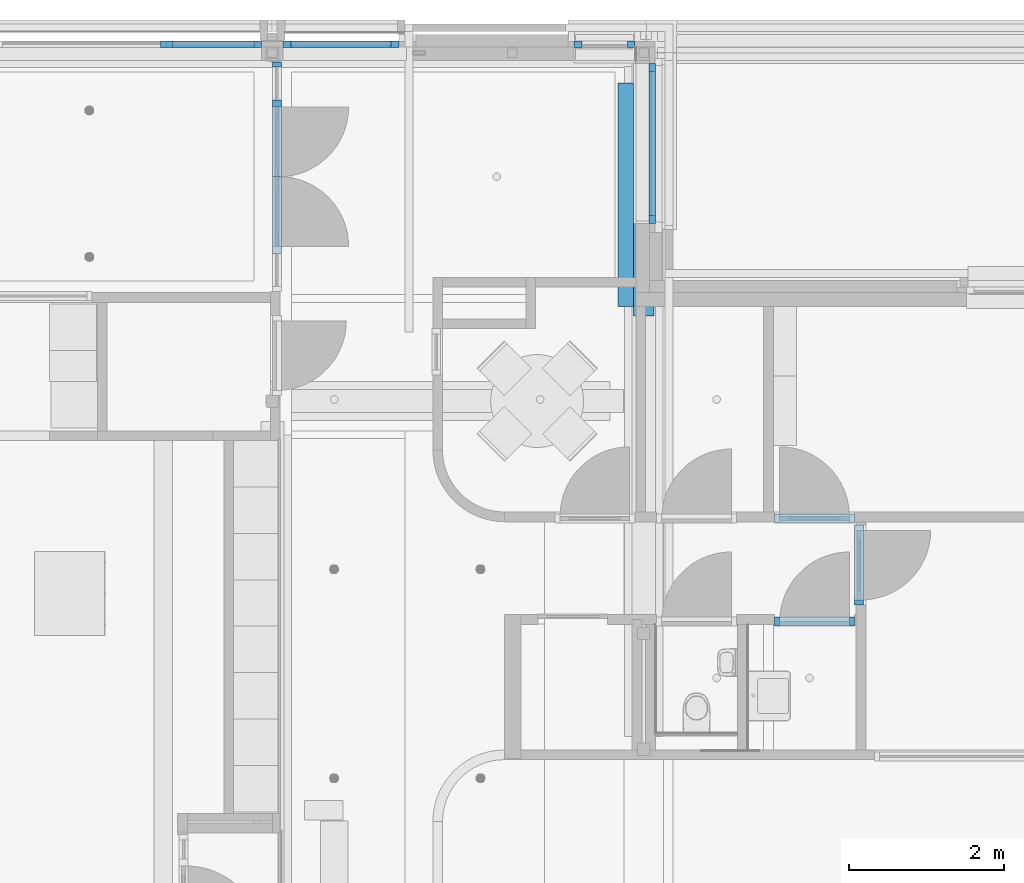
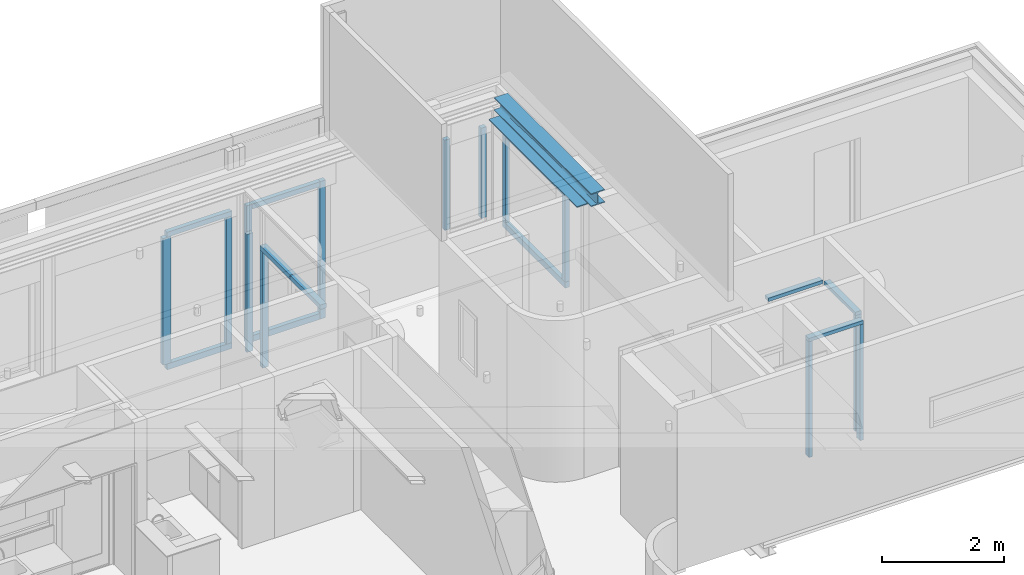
# One storey, part 22 of 128: 24 members, 1 beam, 8 elements without a shape of their own.
"""IFC2X3 building model written with IfcOpenShell, lengths in millimetres."""

from ifc_helpers import new_model, entity, si_unit, converted_unit, derived_unit, direction, frame, frame_2d, origin, origin_2d_with_axis, place, context, subcontext, project, spatial, polyline, circle_curve, parameter, trimmed, segment, composite_curve, rectangle, outline, extrude, source, transform, mapped, material, type_object, type_shapes, element, aggregate, save


model = new_model("IFC2X3")

# Units and contexts
model_context = context("Model", 3, precision=0.01, world=origin(), true_north=direction((6.123031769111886e-17, 1.0)))
body_context = subcontext(model_context, "Body", "Model", "MODEL_VIEW")
ifc_project = project(units=[si_unit("LENGTHUNIT", "METRE", prefix="MILLI"), si_unit("AREAUNIT", "SQUARE_METRE"), si_unit("VOLUMEUNIT", "CUBIC_METRE"), converted_unit("PLANEANGLEUNIT", "DEGREE", entity("IfcRatioMeasure", 0.017453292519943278), si_unit("PLANEANGLEUNIT", "RADIAN"), dimensions=[0, 0, 0, 0, 0, 0, 0]), si_unit("MASSUNIT", "GRAM", prefix="KILO"), derived_unit("MASSDENSITYUNIT", [(si_unit("MASSUNIT", "GRAM", prefix="KILO"), 1), (si_unit("LENGTHUNIT", "METRE"), -3)]), derived_unit("IONCONCENTRATIONUNIT", [(si_unit("MASSUNIT", "GRAM", prefix="KILO"), 1), (si_unit("LENGTHUNIT", "METRE"), -3)]), derived_unit("MOMENTOFINERTIAUNIT", [(si_unit("LENGTHUNIT", "METRE"), 4)]), si_unit("TIMEUNIT", "SECOND"), si_unit("FREQUENCYUNIT", "HERTZ"), si_unit("THERMODYNAMICTEMPERATUREUNIT", "DEGREE_CELSIUS"), derived_unit("THERMALTRANSMITTANCEUNIT", [(si_unit("MASSUNIT", "GRAM", prefix="KILO"), 1), (si_unit("THERMODYNAMICTEMPERATUREUNIT", "KELVIN"), -1), (si_unit("TIMEUNIT", "SECOND"), -3)]), derived_unit("THERMALCONDUCTANCEUNIT", [(si_unit("MASSUNIT", "GRAM", prefix="KILO"), 1), (si_unit("THERMODYNAMICTEMPERATUREUNIT", "KELVIN"), -1), (si_unit("TIMEUNIT", "SECOND"), -3), (si_unit("LENGTHUNIT", "METRE"), 1)]), derived_unit("VOLUMETRICFLOWRATEUNIT", [(si_unit("LENGTHUNIT", "METRE"), 3), (si_unit("TIMEUNIT", "SECOND"), -1)]), derived_unit("MASSFLOWRATEUNIT", [(si_unit("MASSUNIT", "GRAM", prefix="KILO"), 1), (si_unit("TIMEUNIT", "SECOND"), -1)]), derived_unit("ROTATIONALFREQUENCYUNIT", [(si_unit("TIMEUNIT", "SECOND"), -1)]), si_unit("ELECTRICCURRENTUNIT", "AMPERE"), si_unit("ELECTRICVOLTAGEUNIT", "VOLT"), si_unit("POWERUNIT", "WATT"), si_unit("FORCEUNIT", "NEWTON", prefix="KILO"), si_unit("ILLUMINANCEUNIT", "LUX"), si_unit("LUMINOUSFLUXUNIT", "LUMEN"), si_unit("LUMINOUSINTENSITYUNIT", "CANDELA"), derived_unit("USERDEFINED", [(si_unit("MASSUNIT", "GRAM", prefix="KILO"), -1), (si_unit("LENGTHUNIT", "METRE"), -2), (si_unit("TIMEUNIT", "SECOND"), 3), (si_unit("LUMINOUSFLUXUNIT", "LUMEN"), 1)]), derived_unit("USERDEFINED", [(si_unit("MASSUNIT", "GRAM", prefix="KILO"), 1), (si_unit("TIMEUNIT", "SECOND"), -3), (si_unit("LENGTHUNIT", "METRE"), 3), (si_unit("ELECTRICCURRENTUNIT", "AMPERE"), -2)]), derived_unit("SOUNDPOWERUNIT", [(si_unit("MASSUNIT", "GRAM", prefix="KILO"), 1), (si_unit("TIMEUNIT", "SECOND"), -3), (si_unit("LENGTHUNIT", "METRE"), 2)]), derived_unit("SOUNDPRESSUREUNIT", [(si_unit("MASSUNIT", "GRAM", prefix="KILO"), 1), (si_unit("LENGTHUNIT", "METRE"), -1), (si_unit("TIMEUNIT", "SECOND"), -2)]), derived_unit("LINEARVELOCITYUNIT", [(si_unit("LENGTHUNIT", "METRE"), 1), (si_unit("TIMEUNIT", "SECOND"), -1)]), si_unit("PRESSUREUNIT", "PASCAL"), derived_unit("USERDEFINED", [(si_unit("MASSUNIT", "GRAM", prefix="KILO"), 1), (si_unit("LENGTHUNIT", "METRE"), -2), (si_unit("TIMEUNIT", "SECOND"), -2)]), derived_unit("LINEARFORCEUNIT", [(si_unit("MASSUNIT", "GRAM", prefix="KILO"), 1), (si_unit("TIMEUNIT", "SECOND"), -2)]), derived_unit("PLANARFORCEUNIT", [(si_unit("MASSUNIT", "GRAM", prefix="KILO"), 1), (si_unit("LENGTHUNIT", "METRE"), -1), (si_unit("TIMEUNIT", "SECOND"), -2)]), derived_unit("SPECIFICHEATCAPACITYUNIT", [(si_unit("THERMODYNAMICTEMPERATUREUNIT", "KELVIN"), -1), (si_unit("LENGTHUNIT", "METRE"), 2), (si_unit("TIMEUNIT", "SECOND"), -2)]), derived_unit("HEATINGVALUEUNIT", [(si_unit("LENGTHUNIT", "METRE"), 2), (si_unit("TIMEUNIT", "SECOND"), -2)]), derived_unit("VAPORPERMEABILITYUNIT", [(si_unit("LENGTHUNIT", "METRE"), -1), (si_unit("TIMEUNIT", "SECOND"), 1)]), derived_unit("DYNAMICVISCOSITYUNIT", [(si_unit("MASSUNIT", "GRAM", prefix="KILO"), 1), (si_unit("TIMEUNIT", "SECOND"), -1), (si_unit("LENGTHUNIT", "METRE"), -1)]), derived_unit("THERMALEXPANSIONCOEFFICIENTUNIT", [(si_unit("THERMODYNAMICTEMPERATUREUNIT", "KELVIN"), -1)]), derived_unit("MODULUSOFELASTICITYUNIT", [(si_unit("MASSUNIT", "GRAM", prefix="KILO"), 1), (si_unit("LENGTHUNIT", "METRE"), -1), (si_unit("TIMEUNIT", "SECOND"), -2)]), derived_unit("ISOTHERMALMOISTURECAPACITYUNIT", [(si_unit("LENGTHUNIT", "METRE"), 3), (si_unit("MASSUNIT", "GRAM", prefix="KILO"), -1)]), derived_unit("MOISTUREDIFFUSIVITYUNIT", [(si_unit("TIMEUNIT", "SECOND"), -1), (si_unit("LENGTHUNIT", "METRE"), 2)])], contexts=[model_context])

# Site, building, storey
site_placement = place(None, frame((0.0, 300.0, 0.0)))
site = spatial("IfcSite", under=ifc_project, at=site_placement, Name="<Kadastrale nummers>", CompositionType="ELEMENT")
building_placement = place(site_placement, origin())
building = spatial("IfcBuilding", under=site, at=building_placement, CompositionType="ELEMENT")
storey_placement = place(building_placement, frame((0.0, 0.0, 3560.0000331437)))
storey = spatial("IfcBuildingStorey", under=building, at=storey_placement, Name="01 eerste verdieping", CompositionType="ELEMENT", Elevation=3560.0000331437)

# Curtain wall, members
curtain_wall_type_1 = type_object("IfcCurtainWallType", Name="Curtain Wall:Merk H02", PredefinedType="NOTDEFINED")
curtain_wall_1_placement = place(storey_placement, frame((0.0, 0.0, -3560.0000331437)))
curtain_wall_1 = element("IfcCurtainWall", 1, at=curtain_wall_1_placement, inside=storey, type_object=curtain_wall_type_1, Name="Curtain Wall:Merk H02", ObjectType="Curtain Wall:Merk H02")
ifc_material_1 = material(Name="ISR_HPL")
member_type_1 = type_object("IfcMemberType", Name="Rectangular Mullion:31_CWM_067x114", PredefinedType="MULLION", material=ifc_material_1)
shared_shape_1 = source(origin(), body_context, "Body", "SweptSolid", [
    extrude(rectangle(XDim=113.99999999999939, YDim=67.0, at=origin_2d_with_axis()), frame((-33.5, -57.0, -1034.0), z_axis=(0.0, 0.0, 1.0), x_axis=(0.0, -1.0, 0.0)), (0.0, 0.0, 1.0), 1033.9999999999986),
])
type_shapes(member_type_1, [shared_shape_1])
member_1_placement = place(curtain_wall_1_placement, frame((44124.0, 42395.125002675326, 6040.0000331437), z_axis=(1.0, 0.0, 0.0), x_axis=(0.0, 0.0, 1.0)))
member_1 = element("IfcMember", 2, at=member_1_placement, type_object=member_type_1, material=ifc_material_1, Name="Rectangular Mullion:31_CWM_067x114", ObjectType="Rectangular Mullion:31_CWM_067x114", context=body_context, shape_type="MappedRepresentation", body=[
    mapped(shared_shape_1, transform((0.0, 0.0, 0.0), scale=1.0)),
])
member_type_2 = type_object("IfcMemberType", Name="Rectangular Mullion:31_CWM_067x114", PredefinedType="MULLION", material=ifc_material_1)
shared_shape_2 = source(origin(), body_context, "Body", "SweptSolid", [
    extrude(rectangle(XDim=113.99999999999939, YDim=67.0, at=origin_2d_with_axis()), frame((-33.5, -57.0, -2323.0), z_axis=(0.0, 0.0, 1.0), x_axis=(0.0, -1.0, 0.0)), (0.0, 0.0, 1.0), 2323.0),
])
type_shapes(member_type_2, [shared_shape_2])
member_2_placement = place(curtain_wall_1_placement, frame((44124.0, 42395.125002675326, 3650.00003501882), z_axis=(0.0, 0.0, -1.0), x_axis=(1.0, 0.0, 0.0)))
member_2 = element("IfcMember", 3, at=member_2_placement, type_object=member_type_2, material=ifc_material_1, Name="Rectangular Mullion:31_CWM_067x114", ObjectType="Rectangular Mullion:31_CWM_067x114", context=body_context, shape_type="MappedRepresentation", body=[
    mapped(shared_shape_2, transform((0.0, 0.0, 0.0), scale=1.0)),
])
member_type_3 = type_object("IfcMemberType", Name="Rectangular Mullion:31_CWM_067x114", PredefinedType="MULLION", material=ifc_material_1)
shared_shape_3 = source(origin(), body_context, "Body", "SweptSolid", [
    extrude(rectangle(XDim=113.9999999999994, YDim=67.0, at=frame_2d((1.0658141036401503e-14, 0.0), x_axis=(1.0, 0.0))), frame((-33.5, -57.0, -2323.0), z_axis=(0.0, 0.0, 1.0), x_axis=(0.0, -1.0, 0.0)), (0.0, 0.0, 1.0), 2323.0),
])
type_shapes(member_type_3, [shared_shape_3])
member_3_placement = place(curtain_wall_1_placement, frame((43090.0, 42395.12500267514, 5973.0000331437), z_axis=(0.0, 0.0, 1.0), x_axis=(-1.0, 0.0, 0.0)))
member_3 = element("IfcMember", 4, at=member_3_placement, type_object=member_type_3, material=ifc_material_1, Name="Rectangular Mullion:31_CWM_067x114", ObjectType="Rectangular Mullion:31_CWM_067x114", context=body_context, shape_type="MappedRepresentation", body=[
    mapped(shared_shape_3, transform((0.0, 0.0, 0.0), scale=1.0)),
])
aggregate(curtain_wall_1, [member_1, member_2, member_3])

# Curtain wall, member
curtain_wall_type_2 = type_object("IfcCurtainWallType", Name="Curtain Wall:Merk H16", PredefinedType="NOTDEFINED")
curtain_wall_2_placement = place(storey_placement, frame((0.0, 0.0, -3560.0000331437)))
curtain_wall_2 = element("IfcCurtainWall", 5, at=curtain_wall_2_placement, inside=storey, type_object=curtain_wall_type_2, Name="Curtain Wall:Merk H16", ObjectType="Curtain Wall:Merk H16")
member_type_4 = type_object("IfcMemberType", Name="Rectangular Mullion:31_CWM_067x114", PredefinedType="MULLION", material=ifc_material_1)
shared_shape_4 = source(origin(), body_context, "Body", "SweptSolid", [
    extrude(rectangle(XDim=113.99999999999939, YDim=67.0, at=origin_2d_with_axis()), frame((-33.5, 57.0, -2323.0), z_axis=(0.0, 0.0, 1.0), x_axis=(0.0, -1.0, 0.0)), (0.0, 0.0, 1.0), 2323.0),
])
type_shapes(member_type_4, [shared_shape_4])
member_4_placement = place(curtain_wall_2_placement, frame((44125.0, 42663.12500266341, 5973.0000331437), z_axis=(0.0, 0.0, 1.0), x_axis=(0.0, -1.0, 0.0)))
member_4 = element("IfcMember", 6, at=member_4_placement, type_object=member_type_4, material=ifc_material_1, Name="Rectangular Mullion:31_CWM_067x114", ObjectType="Rectangular Mullion:31_CWM_067x114", context=body_context, shape_type="MappedRepresentation", body=[
    mapped(shared_shape_4, transform((0.0, 0.0, 0.0), scale=1.0)),
])

curtain_wall_3_placement = place(storey_placement, frame((0.0, 0.0, -3560.0000331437)))
curtain_wall_3 = element("IfcCurtainWall", 7, at=curtain_wall_3_placement, inside=storey, type_object=curtain_wall_type_2, Name="Curtain Wall:Merk H16", ObjectType="Curtain Wall:Merk H16")
member_type_5 = type_object("IfcMemberType", Name="Rectangular Mullion:31_CWM_067x114", PredefinedType="MULLION", material=ifc_material_1)
shared_shape_5 = source(origin(), body_context, "Body", "SweptSolid", [
    extrude(rectangle(XDim=113.99999999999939, YDim=67.0, at=origin_2d_with_axis()), frame((-33.5, 57.0, -1034.0), z_axis=(0.0, 0.0, 1.0), x_axis=(0.0, -1.0, 0.0)), (0.0, 0.0, 1.0), 1033.9999999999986),
])
type_shapes(member_type_5, [shared_shape_5])
member_5_placement = place(curtain_wall_3_placement, frame((43090.0, 43725.12500267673, 6040.0000331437), z_axis=(-1.0, 0.0, 0.0), x_axis=(0.0, 0.0, 1.0)))
member_5 = element("IfcMember", 8, at=member_5_placement, type_object=member_type_5, material=ifc_material_1, Name="Rectangular Mullion:31_CWM_067x114", ObjectType="Rectangular Mullion:31_CWM_067x114", context=body_context, shape_type="MappedRepresentation", body=[
    mapped(shared_shape_5, transform((0.0, 0.0, 0.0), scale=1.0)),
])
aggregate(curtain_wall_3, [member_5])

# Member
member_6_placement = place(curtain_wall_2_placement, frame((44125.0, 43697.125002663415, 6040.0000331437), z_axis=(0.0, 1.0, 0.0), x_axis=(0.0, 0.0, 1.0)))
member_6 = element("IfcMember", 9, at=member_6_placement, type_object=member_type_5, material=ifc_material_1, Name="Rectangular Mullion:31_CWM_067x114", ObjectType="Rectangular Mullion:31_CWM_067x114", context=body_context, shape_type="MappedRepresentation", body=[
    mapped(shared_shape_5, transform((0.0, 0.0, 0.0), scale=1.0)),
])

aggregate(curtain_wall_2, [member_6, member_4])

# Curtain wall, members
curtain_wall_type_3 = type_object("IfcCurtainWallType", Name="Curtain Wall:Merk H11", PredefinedType="NOTDEFINED")
curtain_wall_4_placement = place(storey_placement, frame((0.0, 0.0, -3560.0000331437)))
curtain_wall_4 = element("IfcCurtainWall", 10, at=curtain_wall_4_placement, inside=storey, type_object=curtain_wall_type_3, Name="Curtain Wall:Merk H11", ObjectType="Curtain Wall:Merk H11")
ifc_material_2 = material(Name="ISR_HPL Kleur hout")
member_type_6 = type_object("IfcMemberType", Name="Rectangular Mullion:31_CWM_090x114", PredefinedType="MULLION", material=ifc_material_2)
shared_shape_6 = source(origin(), body_context, "Body", "SweptSolid", [
    extrude(rectangle(XDim=113.99999999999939, YDim=90.0, at=origin_2d_with_axis()), frame((0.0, -57.0, -2323.0), z_axis=(0.0, 0.0, 1.0), x_axis=(0.0, -1.0, 0.0)), (0.0, 0.0, 1.0), 2322.9999999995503),
])
type_shapes(member_type_6, [shared_shape_6])
member_7_placement = place(curtain_wall_4_placement, frame((36601.0, 49145.0, 3650.0000350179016), z_axis=(0.0, 0.0, -1.0), x_axis=(0.0, -1.0, 0.0)))
member_7 = element("IfcMember", 11, at=member_7_placement, type_object=member_type_6, material=ifc_material_2, Name="Rectangular Mullion:31_CWM_090x114", ObjectType="Rectangular Mullion:31_CWM_090x114", context=body_context, shape_type="MappedRepresentation", body=[
    mapped(shared_shape_6, transform((0.0, 0.0, 0.0), scale=1.0)),
])
member_type_7 = type_object("IfcMemberType", Name="Rectangular Mullion:31_CWM_067x114", PredefinedType="MULLION", material=ifc_material_1)
shared_shape_7 = source(origin(), body_context, "Body", "SweptSolid", [
    extrude(rectangle(XDim=113.99999999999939, YDim=67.0, at=origin_2d_with_axis()), frame((-33.5, -57.0, -2368.0), z_axis=(0.0, 0.0, 1.0), x_axis=(0.0, -1.0, 0.0)), (0.0, 0.0, 1.0), 2368.0),
])
type_shapes(member_type_7, [shared_shape_7])
member_8_placement = place(curtain_wall_4_placement, frame((36601.0, 49685.0, 6018.0000331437), z_axis=(0.0, 0.0, 1.0), x_axis=(0.0, 1.0, 0.0)))
member_8 = element("IfcMember", 12, at=member_8_placement, type_object=member_type_7, material=ifc_material_1, Name="Rectangular Mullion:31_CWM_067x114", ObjectType="Rectangular Mullion:31_CWM_067x114", context=body_context, shape_type="MappedRepresentation", body=[
    mapped(shared_shape_7, transform((0.0, 0.0, 0.0), scale=1.0)),
])
member_type_8 = type_object("IfcMemberType", Name="Rectangular Mullion:31_CWM_090x114", PredefinedType="MULLION", material=ifc_material_2)
shared_shape_8 = source(origin(), body_context, "Body", "SweptSolid", [
    extrude(rectangle(XDim=113.99999999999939, YDim=90.0, at=origin_2d_with_axis()), frame((0.0, -57.0, -990.0), z_axis=(0.0, 0.0, 1.0), x_axis=(0.0, -1.0, 0.0)), (0.0, 0.0, 1.0), 989.9999999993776),
])
type_shapes(member_type_8, [shared_shape_8])
member_9_placement = place(curtain_wall_4_placement, frame((36601.0, 48200.0, 6018.0000331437), z_axis=(0.0, -1.0, 0.0), x_axis=(0.0, 0.0, 1.0)))
member_9 = element("IfcMember", 13, at=member_9_placement, type_object=member_type_8, material=ifc_material_2, Name="Rectangular Mullion:31_CWM_090x114", ObjectType="Rectangular Mullion:31_CWM_090x114", context=body_context, shape_type="MappedRepresentation", body=[
    mapped(shared_shape_8, transform((0.0, 0.0, 0.0), scale=1.0)),
])
member_type_9 = type_object("IfcMemberType", Name="Rectangular Mullion:31_CWM_090x114", PredefinedType="MULLION", material=ifc_material_2)
shared_shape_9 = source(origin(), body_context, "Body", "SweptSolid", [
    extrude(rectangle(XDim=113.99999999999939, YDim=90.0, at=origin_2d_with_axis()), frame((0.0, -57.0, -990.0), z_axis=(0.0, 0.0, 1.0), x_axis=(0.0, -1.0, 0.0)), (0.0, 0.0, 1.0), 990.0000000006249),
])
type_shapes(member_type_9, [shared_shape_9])
member_10_placement = place(curtain_wall_4_placement, frame((36601.0, 47210.0, 6018.0000331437), z_axis=(0.0, -1.0, 0.0), x_axis=(0.0, 0.0, 1.0)))
member_10 = element("IfcMember", 14, at=member_10_placement, type_object=member_type_9, material=ifc_material_2, Name="Rectangular Mullion:31_CWM_090x114", ObjectType="Rectangular Mullion:31_CWM_090x114", context=body_context, shape_type="MappedRepresentation", body=[
    mapped(shared_shape_9, transform((0.0, 0.0, 0.0), scale=1.0)),
])
aggregate(curtain_wall_4, [member_7, member_8, member_9, member_10])

curtain_wall_type_4 = type_object("IfcCurtainWallType", Name="Curtain Wall:K_26", PredefinedType="NOTDEFINED")
curtain_wall_5_placement = place(storey_placement, frame((0.0, 0.0, -3560.0000331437)))
curtain_wall_5 = element("IfcCurtainWall", 15, at=curtain_wall_5_placement, inside=storey, type_object=curtain_wall_type_4, Name="Curtain Wall:K_26", ObjectType="Curtain Wall:K_26")
ifc_material_3 = material(Name="ISR_Kunststof_RAL7006")
member_type_10 = type_object("IfcMemberType", Name="Rectangular Mullion:100x83 Gealan Kubus", PredefinedType="MULLION", material=ifc_material_3)
shared_shape_10 = source(origin(), body_context, "Body", "SweptSolid", [
    extrude(rectangle(XDim=83.0, YDim=100.0, at=origin_2d_with_axis()), frame((-50.0, 41.5, -1295.0), z_axis=(0.0, 0.0, 1.0), x_axis=(0.0, -1.0, 0.0)), (0.0, 0.0, 1.0), 1295.0000000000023),
])
type_shapes(member_type_10, [shared_shape_10])
member_11_placement = place(curtain_wall_5_placement, frame((36840.0, 49868.0, 6390.0), z_axis=(-1.0, 0.0, 0.0), x_axis=(0.0, 0.0, 1.0)))
member_11 = element("IfcMember", 16, at=member_11_placement, type_object=member_type_10, material=ifc_material_3, Name="Rectangular Mullion:100x83 Gealan Kubus", ObjectType="Rectangular Mullion:100x83 Gealan Kubus", context=body_context, shape_type="MappedRepresentation", body=[
    mapped(shared_shape_10, transform((0.0, 0.0, 0.0), scale=1.0)),
])
member_type_11 = type_object("IfcMemberType", Name="Rectangular Mullion:120x83 Gealan Kubus", PredefinedType="MULLION", material=ifc_material_3)
shared_shape_11 = source(origin(), body_context, "Body", "SweptSolid", [
    extrude(rectangle(XDim=83.00000000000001, YDim=120.0, at=origin_2d_with_axis()), frame((-60.0, 41.50000000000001, -1295.0), z_axis=(0.0, 0.0, 1.0), x_axis=(0.0, -1.0, 0.0)), (0.0, 0.0, 1.0), 1295.000000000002),
])
type_shapes(member_type_11, [shared_shape_11])
member_12_placement = place(curtain_wall_5_placement, frame((38135.0, 49868.0, 3630.0000350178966), z_axis=(1.0, 0.0, 0.0), x_axis=(0.0, 0.0, -1.0)))
member_12 = element("IfcMember", 17, at=member_12_placement, type_object=member_type_11, material=ifc_material_3, Name="Rectangular Mullion:120x83 Gealan Kubus", ObjectType="Rectangular Mullion:120x83 Gealan Kubus", context=body_context, shape_type="MappedRepresentation", body=[
    mapped(shared_shape_11, transform((0.0, 0.0, 0.0), scale=1.0)),
])

# Curtain wall, member
curtain_wall_type_5 = type_object("IfcCurtainWallType", Name="Curtain Wall:K_30", PredefinedType="NOTDEFINED")
curtain_wall_6_placement = place(storey_placement, frame((0.0, 0.0, -3560.0000331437)))
curtain_wall_6 = element("IfcCurtainWall", 18, at=curtain_wall_6_placement, inside=storey, type_object=curtain_wall_type_5, Name="Curtain Wall:K_30", ObjectType="Curtain Wall:K_30")
member_type_12 = type_object("IfcMemberType", Name="Rectangular Mullion:100x83 Gealan Kubus", PredefinedType="MULLION", material=ifc_material_3)
shared_shape_12 = source(origin(), body_context, "Body", "SweptSolid", [
    extrude(rectangle(XDim=83.0, YDim=100.0, at=origin_2d_with_axis()), frame((-50.0, 41.5, -1810.0), z_axis=(0.0, 0.0, 1.0), x_axis=(0.0, -1.0, 0.0)), (0.0, 0.0, 1.0), 1810.0),
])
type_shapes(member_type_12, [shared_shape_12])
member_13_placement = place(curtain_wall_6_placement, frame((40499.0, 49868.0, 4580.0000331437), z_axis=(0.0, 0.0, -1.0), x_axis=(-1.0, 0.0, 0.0)))
member_13 = element("IfcMember", 19, at=member_13_placement, type_object=member_type_12, material=ifc_material_3, Name="Rectangular Mullion:100x83 Gealan Kubus", ObjectType="Rectangular Mullion:100x83 Gealan Kubus", context=body_context, shape_type="MappedRepresentation", body=[
    mapped(shared_shape_12, transform((0.0, 0.0, 0.0), scale=1.0)),
])

curtain_wall_type_6 = type_object("IfcCurtainWallType", Name="Curtain Wall:K_23", PredefinedType="NOTDEFINED")
curtain_wall_7_placement = place(storey_placement, frame((0.0, 0.0, -3560.0000331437)))
curtain_wall_7 = element("IfcCurtainWall", 20, at=curtain_wall_7_placement, inside=storey, type_object=curtain_wall_type_6, Name="Curtain Wall:K_23", ObjectType="Curtain Wall:K_23")
member_14_placement = place(curtain_wall_7_placement, frame((41468.0, 49660.0, 4580.0000331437), z_axis=(0.0, 0.0, -1.0), x_axis=(0.0, 1.0, 0.0)))
member_14 = element("IfcMember", 21, at=member_14_placement, type_object=member_type_12, material=ifc_material_3, Name="Rectangular Mullion:100x83 Gealan Kubus", ObjectType="Rectangular Mullion:100x83 Gealan Kubus", context=body_context, shape_type="MappedRepresentation", body=[
    mapped(shared_shape_12, transform((0.0, 0.0, 0.0), scale=1.0)),
])

# Member
member_type_13 = type_object("IfcMemberType", Name="Rectangular Mullion:100x83 Gealan Kubus", PredefinedType="MULLION", material=ifc_material_3)
shared_shape_13 = source(origin(), body_context, "Body", "SweptSolid", [
    extrude(rectangle(XDim=83.0, YDim=100.0, at=origin_2d_with_axis()), frame((-50.0, 41.5, -1810.0), z_axis=(0.0, 0.0, 1.0), x_axis=(0.0, -1.0, 0.0)), (0.0, 0.0, 1.0), 1810.0),
])
type_shapes(member_type_13, [shared_shape_13])
member_15_placement = place(curtain_wall_6_placement, frame((41289.0, 49868.0, 6390.0)))
member_15 = element("IfcMember", 22, at=member_15_placement, type_object=member_type_13, material=ifc_material_3, Name="Rectangular Mullion:100x83 Gealan Kubus", ObjectType="Rectangular Mullion:100x83 Gealan Kubus", context=body_context, shape_type="MappedRepresentation", body=[
    mapped(shared_shape_13, transform((0.0, 0.0, 0.0), scale=1.0)),
])

aggregate(curtain_wall_6, [member_13, member_15])

member_16_placement = place(curtain_wall_7_placement, frame((41468.0, 47596.0, 6390.0000331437), z_axis=(0.0, 0.0, 1.0), x_axis=(0.0, -1.0, 0.0)))
member_16 = element("IfcMember", 23, at=member_16_placement, type_object=member_type_13, material=ifc_material_3, Name="Rectangular Mullion:100x83 Gealan Kubus", ObjectType="Rectangular Mullion:100x83 Gealan Kubus", context=body_context, shape_type="MappedRepresentation", body=[
    mapped(shared_shape_13, transform((0.0, 0.0, 0.0), scale=1.0)),
])

member_type_14 = type_object("IfcMemberType", Name="Rectangular Mullion:100x83 Gealan Kubus", PredefinedType="MULLION", material=ifc_material_3)
shared_shape_14 = source(origin(), body_context, "Body", "SweptSolid", [
    extrude(rectangle(XDim=83.0, YDim=100.0, at=origin_2d_with_axis()), frame((-50.0, 41.5, -1864.0), z_axis=(0.0, 0.0, 1.0), x_axis=(0.0, -1.0, 0.0)), (0.0, 0.0, 1.0), 1863.9999999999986),
])
type_shapes(member_type_14, [shared_shape_14])
member_17_placement = place(curtain_wall_7_placement, frame((41468.0, 49560.0, 6390.0000331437), z_axis=(0.0, 1.0, 0.0), x_axis=(0.0, 0.0, 1.0)))
member_17 = element("IfcMember", 24, at=member_17_placement, type_object=member_type_14, material=ifc_material_3, Name="Rectangular Mullion:100x83 Gealan Kubus", ObjectType="Rectangular Mullion:100x83 Gealan Kubus", context=body_context, shape_type="MappedRepresentation", body=[
    mapped(shared_shape_14, transform((0.0, 0.0, 0.0), scale=1.0)),
])

member_type_15 = type_object("IfcMemberType", Name="Rectangular Mullion:120x83 Gealan Kubus", PredefinedType="MULLION", material=ifc_material_3)
shared_shape_15 = source(origin(), body_context, "Body", "SweptSolid", [
    extrude(rectangle(XDim=83.0, YDim=120.0, at=origin_2d_with_axis()), frame((-60.0, 41.5, -2064.0), z_axis=(0.0, 0.0, 1.0), x_axis=(0.0, -1.0, 0.0)), (0.0, 0.0, 1.0), 2063.999999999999),
])
type_shapes(member_type_15, [shared_shape_15])
member_18_placement = place(curtain_wall_7_placement, frame((41468.0, 47596.0, 4460.000035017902), z_axis=(0.0, -1.0, 0.0), x_axis=(0.0, 0.0, -1.0)))
member_18 = element("IfcMember", 25, at=member_18_placement, type_object=member_type_15, material=ifc_material_3, Name="Rectangular Mullion:120x83 Gealan Kubus", ObjectType="Rectangular Mullion:120x83 Gealan Kubus", context=body_context, shape_type="MappedRepresentation", body=[
    mapped(shared_shape_15, transform((0.0, 0.0, 0.0), scale=1.0)),
])

aggregate(curtain_wall_7, [member_17, member_18, member_14, member_16])

member_type_16 = type_object("IfcMemberType", Name="Rectangular Mullion:100x83 Gealan Kubus", PredefinedType="MULLION", material=ifc_material_3)
shared_shape_16 = source(origin(), body_context, "Body", "SweptSolid", [
    extrude(rectangle(XDim=83.0, YDim=100.0, at=origin_2d_with_axis()), frame((-50.0, 41.5, -2759.9999649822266), z_axis=(0.0, 0.0, 1.0), x_axis=(0.0, -1.0, 0.0)), (0.0, 0.0, 1.0), 2759.9999649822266),
])
type_shapes(member_type_16, [shared_shape_16])
member_19_placement = place(curtain_wall_5_placement, frame((36740.0, 49868.0, 3630.0000350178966), z_axis=(0.0, 0.0, -1.0), x_axis=(-1.0, 0.0, 0.0)))
member_19 = element("IfcMember", 26, at=member_19_placement, type_object=member_type_16, material=ifc_material_3, Name="Rectangular Mullion:100x83 Gealan Kubus", ObjectType="Rectangular Mullion:100x83 Gealan Kubus", context=body_context, shape_type="MappedRepresentation", body=[
    mapped(shared_shape_16, transform((0.0, 0.0, 0.0), scale=1.0)),
])

member_type_17 = type_object("IfcMemberType", Name="Rectangular Mullion:100x83 Gealan Kubus", PredefinedType="MULLION", material=ifc_material_3)
shared_shape_17 = source(origin(), body_context, "Body", "SweptSolid", [
    extrude(rectangle(XDim=83.0, YDim=100.0, at=origin_2d_with_axis()), frame((-50.0, 41.5, -2759.999964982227), z_axis=(0.0, 0.0, 1.0), x_axis=(0.0, -1.0, 0.0)), (0.0, 0.0, 1.0), 2759.999964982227),
])
type_shapes(member_type_17, [shared_shape_17])
member_20_placement = place(curtain_wall_5_placement, frame((38235.0, 49868.0, 6390.0)))
member_20 = element("IfcMember", 27, at=member_20_placement, type_object=member_type_17, material=ifc_material_3, Name="Rectangular Mullion:100x83 Gealan Kubus", ObjectType="Rectangular Mullion:100x83 Gealan Kubus", context=body_context, shape_type="MappedRepresentation", body=[
    mapped(shared_shape_17, transform((0.0, 0.0, 0.0), scale=1.0)),
])

aggregate(curtain_wall_5, [member_11, member_12, member_19, member_20])

# Curtain wall, members
curtain_wall_type_7 = type_object("IfcCurtainWallType", Name="Curtain Wall:K_27", PredefinedType="NOTDEFINED")
curtain_wall_8_placement = place(storey_placement, frame((0.0, 0.0, -3560.0000331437)))
curtain_wall_8 = element("IfcCurtainWall", 28, at=curtain_wall_8_placement, inside=storey, type_object=curtain_wall_type_7, Name="Curtain Wall:K_27", ObjectType="Curtain Wall:K_27")
member_type_18 = type_object("IfcMemberType", Name="Rectangular Mullion:120x83 Gealan Kubus", PredefinedType="MULLION", material=ifc_material_3)
shared_shape_18 = source(origin(), body_context, "Body", "SweptSolid", [
    extrude(rectangle(XDim=83.00000000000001, YDim=120.0, at=origin_2d_with_axis()), frame((-60.0, 41.50000000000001, -1228.0), z_axis=(0.0, 0.0, 1.0), x_axis=(0.0, -1.0, 0.0)), (0.0, 0.0, 1.0), 1227.999999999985),
])
type_shapes(member_type_18, [shared_shape_18])
member_21_placement = place(curtain_wall_8_placement, frame((36460.0, 49868.0, 3630.0000350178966), z_axis=(1.0, 0.0, 0.0), x_axis=(0.0, 0.0, -1.0)))
member_21 = element("IfcMember", 29, at=member_21_placement, type_object=member_type_18, material=ifc_material_3, Name="Rectangular Mullion:120x83 Gealan Kubus", ObjectType="Rectangular Mullion:120x83 Gealan Kubus", context=body_context, shape_type="MappedRepresentation", body=[
    mapped(shared_shape_18, transform((0.0, 0.0, 0.0), scale=1.0)),
])
member_type_19 = type_object("IfcMemberType", Name="Rectangular Mullion:100x83 Gealan Kubus", PredefinedType="MULLION", material=ifc_material_3)
shared_shape_19 = source(origin(), body_context, "Body", "SweptSolid", [
    extrude(rectangle(XDim=83.0, YDim=100.0, at=origin_2d_with_axis()), frame((-50.0, 41.5, -2539.999964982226), z_axis=(0.0, 0.0, 1.0), x_axis=(0.0, -1.0, 0.0)), (0.0, 0.0, 1.0), 2539.999964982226),
])
type_shapes(member_type_19, [shared_shape_19])
member_22_placement = place(curtain_wall_8_placement, frame((36460.0, 49868.0, 6290.0)))
member_22 = element("IfcMember", 30, at=member_22_placement, type_object=member_type_19, material=ifc_material_3, Name="Rectangular Mullion:100x83 Gealan Kubus", ObjectType="Rectangular Mullion:100x83 Gealan Kubus", context=body_context, shape_type="MappedRepresentation", body=[
    mapped(shared_shape_19, transform((0.0, 0.0, 0.0), scale=1.0)),
])
member_type_20 = type_object("IfcMemberType", Name="Rectangular Mullion:100x83 Gealan Kubus", PredefinedType="MULLION", material=ifc_material_3)
shared_shape_20 = source(origin(), body_context, "Body", "SweptSolid", [
    extrude(rectangle(XDim=83.0, YDim=100.0, at=origin_2d_with_axis()), frame((-50.0, 41.5, -1228.0), z_axis=(0.0, 0.0, 1.0), x_axis=(0.0, -1.0, 0.0)), (0.0, 0.0, 1.0), 1227.999999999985),
])
type_shapes(member_type_20, [shared_shape_20])
member_23_placement = place(curtain_wall_8_placement, frame((35232.0, 49868.0, 6390.0), z_axis=(-1.0, 0.0, 0.0), x_axis=(0.0, 0.0, 1.0)))
member_23 = element("IfcMember", 31, at=member_23_placement, type_object=member_type_20, material=ifc_material_3, Name="Rectangular Mullion:100x83 Gealan Kubus", ObjectType="Rectangular Mullion:100x83 Gealan Kubus", context=body_context, shape_type="MappedRepresentation", body=[
    mapped(shared_shape_20, transform((0.0, 0.0, 0.0), scale=1.0)),
])
member_type_21 = type_object("IfcMemberType", Name="Rectangular Mullion:154x83 Gealan Kubus", PredefinedType="MULLION", material=ifc_material_3)
shared_shape_21 = source(origin(), body_context, "Body", "SweptSolid", [
    extrude(rectangle(XDim=83.0, YDim=154.0, at=origin_2d_with_axis()), frame((0.0, 41.5, -2539.9999649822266), z_axis=(0.0, 0.0, 1.0), x_axis=(0.0, -1.0, 0.0)), (0.0, 0.0, 1.0), 2539.9999649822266),
])
type_shapes(member_type_21, [shared_shape_21])
member_24_placement = place(curtain_wall_8_placement, frame((35232.0, 49868.0, 3750.000035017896), z_axis=(0.0, 0.0, -1.0), x_axis=(-1.0, 0.0, 0.0)))
member_24 = element("IfcMember", 32, at=member_24_placement, type_object=member_type_21, material=ifc_material_3, Name="Rectangular Mullion:154x83 Gealan Kubus", ObjectType="Rectangular Mullion:154x83 Gealan Kubus", context=body_context, shape_type="MappedRepresentation", body=[
    mapped(shared_shape_21, transform((0.0, 0.0, 0.0), scale=1.0)),
])
aggregate(curtain_wall_8, [member_21, member_22, member_23, member_24])

# Beam
ifc_material_4 = material(Name="h2_staal S235")
beam_type = type_object("IfcBeamType", Name="NLRS_28_SF_LIB_balk SFB_gen_ASN Links:balk HEB260 450x20", PredefinedType="T_BEAM", material=ifc_material_4)
shared_shape_22 = source(origin(), body_context, "Body", "SweptSolid", [
    extrude(outline(composite_curve([segment(polyline([(112.49999999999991, -130.0), (130.0, -130.0)]), True, "CONTINUOUS"), segment(polyline([(130.0, -130.0), (130.0, 130.0)]), True, "CONTINUOUS"), segment(polyline([(130.0, 130.0), (112.49999999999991, 130.0)]), True, "CONTINUOUS"), segment(polyline([(112.49999999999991, 130.0), (112.49999999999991, 29.0)]), True, "CONTINUOUS"), segment(trimmed(circle_curve(frame_2d((88.49999999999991, 29.0), x_axis=(1.0, 0.0)), 23.99999999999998), [parameter(269.99999999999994)], [parameter(0.0)], True, "PARAMETER"), False, "CONTINUOUS"), segment(polyline([(88.49999999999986, 5.0), (-88.5, 5.0)]), True, "CONTINUOUS"), segment(trimmed(circle_curve(frame_2d((-88.49999999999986, 29.0), x_axis=(0.0, -1.0)), 24.000000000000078), [parameter(269.9999999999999)], [parameter(0.0)], True, "PARAMETER"), False, "CONTINUOUS"), segment(polyline([(-112.49999999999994, 29.0), (-112.49999999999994, 130.0)]), True, "CONTINUOUS"), segment(polyline([(-112.49999999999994, 130.0), (-130.0, 130.0)]), True, "CONTINUOUS"), segment(polyline([(-130.0, 130.0), (-130.0, -130.0)]), True, "CONTINUOUS"), segment(polyline([(-130.0, -130.0), (-112.49999999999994, -130.0)]), True, "CONTINUOUS"), segment(polyline([(-112.49999999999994, -130.0), (-112.49999999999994, -29.0)]), True, "CONTINUOUS"), segment(trimmed(circle_curve(frame_2d((-88.49999999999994, -29.0), x_axis=(-1.0, 0.0)), 23.99999999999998), [parameter(269.99999999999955)], [parameter(0.0)], True, "PARAMETER"), False, "CONTINUOUS"), segment(polyline([(-88.49999999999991, -5.0), (88.49999999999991, -5.0)]), True, "CONTINUOUS"), segment(trimmed(circle_curve(frame_2d((88.49999999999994, -29.0), x_axis=(0.0, 1.0)), 23.999999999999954), [parameter(269.9999999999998)], [parameter(0.0)], True, "PARAMETER"), False, "CONTINUOUS"), segment(polyline([(112.49999999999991, -29.0), (112.49999999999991, -130.0)]), True, "CONTINUOUS")], self_intersect=False)), frame((-1700.0, 0.0, 56.0), z_axis=(1.0, 0.0, 0.0), x_axis=(0.0, 0.0, -1.0)), (0.0, 0.0, 1.0), 3187.499999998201),
    extrude(rectangle(XDim=20.000000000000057, YDim=459.9999999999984, at=origin_2d_with_axis()), frame((-1580.0, 100.0, -84.0), z_axis=(1.0, 0.0, 0.0), x_axis=(0.0, 0.0, -1.0)), (0.0, 0.0, 1.0), 2893.7690330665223),
])
type_shapes(beam_type, [shared_shape_22])
beam_placement = place(storey_placement, frame((41400.0, 48100.0, 3404.0), z_axis=(0.0, 0.0, 1.0), x_axis=(0.0, 1.0, 0.0)))
element("IfcBeam", 33, at=beam_placement, inside=storey, type_object=beam_type, material=ifc_material_4, Name="NLRS_28_SF_LIB_balk SFB_gen_ASN Links:balk HEB260 450x20", ObjectType="NLRS_28_SF_LIB_balk SFB_gen_ASN Links:balk HEB260 450x20", context=body_context, shape_type="MappedRepresentation", body=[
    mapped(shared_shape_22, transform((0.0, 0.0, 0.0), scale=1.0)),
])

save(model, "model.ifc")
